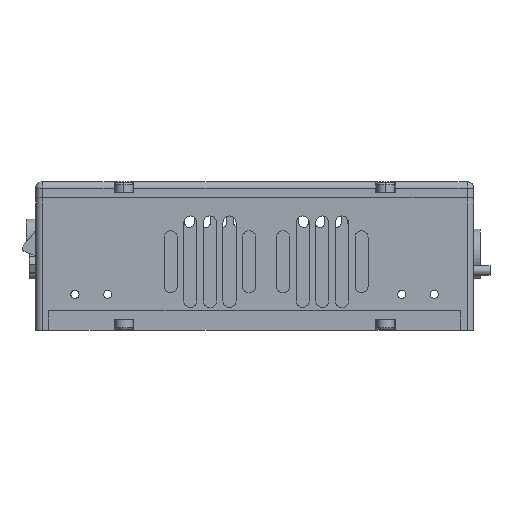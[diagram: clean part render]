
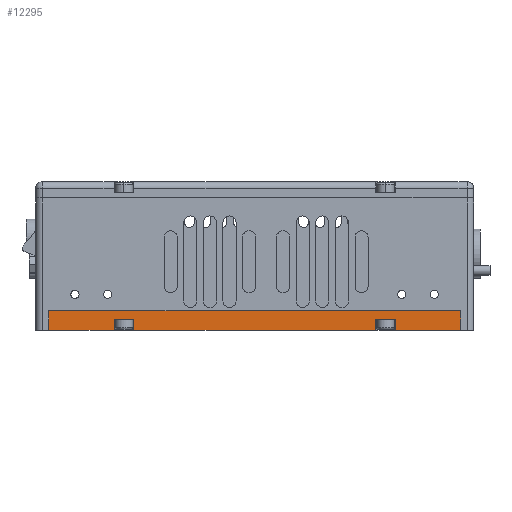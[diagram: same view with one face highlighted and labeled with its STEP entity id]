
A CAD part, left-side view. The second image highlights one B-rep face of the part: STEP entity #12295.
In plain terms, the highlighted planar face has unit normal (-1, 0, 0).
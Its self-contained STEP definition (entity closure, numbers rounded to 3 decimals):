
#48 = DIRECTION ( 'NONE',  ( 0., 0., -1. ) ) ;
#385 = ORIENTED_EDGE ( 'NONE', *, *, #43099, .T. ) ;
#536 = EDGE_CURVE ( 'NONE', #17901, #13995, #5766, .T. ) ;
#1680 = ORIENTED_EDGE ( 'NONE', *, *, #68873, .F. ) ;
#2332 = CARTESIAN_POINT ( 'NONE',  ( -82.53, -33.464, 160. ) ) ;
#2452 = CARTESIAN_POINT ( 'NONE',  ( -82.53, 66.536, 160. ) ) ;
#3246 = DIRECTION ( 'NONE',  ( 0., 1., 0. ) ) ;
#3880 = ORIENTED_EDGE ( 'NONE', *, *, #32944, .T. ) ;
#4252 = DIRECTION ( 'NONE',  ( 0., -1., 0. ) ) ;
#5336 = EDGE_CURVE ( 'NONE', #30299, #17901, #9586, .T. ) ;
#5766 = LINE ( 'NONE', #59348, #59081 ) ;
#6698 = LINE ( 'NONE', #79494, #22398 ) ;
#8319 = VECTOR ( 'NONE', #25531, 1000. ) ;
#9246 = CARTESIAN_POINT ( 'NONE',  ( -82.53, 66.536, 166. ) ) ;
#9586 = LINE ( 'NONE', #24372, #78517 ) ;
#10113 = CARTESIAN_POINT ( 'NONE',  ( -82.53, 46.536, 163.4 ) ) ;
#10163 = ORIENTED_EDGE ( 'NONE', *, *, #5336, .F. ) ;
#11516 = LINE ( 'NONE', #84877, #62711 ) ;
#11641 = CARTESIAN_POINT ( 'NONE',  ( -82.53, -33.464, 163.4 ) ) ;
#11985 = ORIENTED_EDGE ( 'NONE', *, *, #52249, .F. ) ;
#12093 = EDGE_CURVE ( 'NONE', #42772, #34547, #63641, .T. ) ;
#12295 = ADVANCED_FACE ( 'NONE', ( #84518 ), #55277, .F. ) ;
#13995 = VERTEX_POINT ( 'NONE', #39219 ) ;
#15279 = CARTESIAN_POINT ( 'NONE',  ( -82.53, 66.536, 166. ) ) ;
#17240 = ORIENTED_EDGE ( 'NONE', *, *, #12093, .F. ) ;
#17491 = DIRECTION ( 'NONE',  ( 0., -1., 0. ) ) ;
#17901 = VERTEX_POINT ( 'NONE', #75619 ) ;
#18163 = AXIS2_PLACEMENT_3D ( 'NONE', #15279, #61994, #22013 ) ;
#18798 = VECTOR ( 'NONE', #23178, 1000. ) ;
#19176 = LINE ( 'NONE', #57475, #36913 ) ;
#19394 = EDGE_CURVE ( 'NONE', #21034, #68432, #62543, .T. ) ;
#21034 = VERTEX_POINT ( 'NONE', #65521 ) ;
#22013 = DIRECTION ( 'NONE',  ( 0., 1., 0. ) ) ;
#22398 = VECTOR ( 'NONE', #46212, 1000. ) ;
#23178 = DIRECTION ( 'NONE',  ( 0., -1., 0. ) ) ;
#24372 = CARTESIAN_POINT ( 'NONE',  ( -82.53, 66.536, 166. ) ) ;
#24611 = CARTESIAN_POINT ( 'NONE',  ( -82.53, 66.536, 160. ) ) ;
#25531 = DIRECTION ( 'NONE',  ( 0., 0., -1. ) ) ;
#25984 = VERTEX_POINT ( 'NONE', #2332 ) ;
#26157 = LINE ( 'NONE', #72970, #59583 ) ;
#28611 = VERTEX_POINT ( 'NONE', #24611 ) ;
#29591 = VERTEX_POINT ( 'NONE', #80109 ) ;
#30299 = VERTEX_POINT ( 'NONE', #33548 ) ;
#30479 = EDGE_CURVE ( 'NONE', #30299, #28611, #81844, .T. ) ;
#32029 = VERTEX_POINT ( 'NONE', #32395 ) ;
#32395 = CARTESIAN_POINT ( 'NONE',  ( -82.53, 40.536, 160. ) ) ;
#32944 = EDGE_CURVE ( 'NONE', #42772, #29591, #11516, .T. ) ;
#33136 = ORIENTED_EDGE ( 'NONE', *, *, #19394, .T. ) ;
#33548 = CARTESIAN_POINT ( 'NONE',  ( -82.53, 66.536, 166. ) ) ;
#34547 = VERTEX_POINT ( 'NONE', #72890 ) ;
#35897 = LINE ( 'NONE', #62380, #69330 ) ;
#36565 = CARTESIAN_POINT ( 'NONE',  ( -82.53, -39.464, 163.4 ) ) ;
#36620 = ORIENTED_EDGE ( 'NONE', *, *, #38635, .T. ) ;
#36913 = VECTOR ( 'NONE', #17491, 1000. ) ;
#37716 = DIRECTION ( 'NONE',  ( 0., 0., -1. ) ) ;
#38382 = VERTEX_POINT ( 'NONE', #11641 ) ;
#38635 = EDGE_CURVE ( 'NONE', #29591, #32029, #35897, .T. ) ;
#39219 = CARTESIAN_POINT ( 'NONE',  ( -82.53, -59.464, 160. ) ) ;
#42772 = VERTEX_POINT ( 'NONE', #10113 ) ;
#43099 = EDGE_CURVE ( 'NONE', #28611, #34547, #72096, .T. ) ;
#44728 = EDGE_CURVE ( 'NONE', #68432, #13995, #19176, .T. ) ;
#45310 = LINE ( 'NONE', #36565, #78754 ) ;
#46212 = DIRECTION ( 'NONE',  ( 0., -1., 0. ) ) ;
#48662 = EDGE_CURVE ( 'NONE', #32029, #25984, #6698, .T. ) ;
#48917 = ORIENTED_EDGE ( 'NONE', *, *, #30479, .T. ) ;
#49243 = DIRECTION ( 'NONE',  ( 0., 0., -1. ) ) ;
#50699 = CARTESIAN_POINT ( 'NONE',  ( -82.53, -39.464, 160. ) ) ;
#52249 = EDGE_CURVE ( 'NONE', #38382, #25984, #26157, .T. ) ;
#55277 = PLANE ( 'NONE',  #18163 ) ;
#57475 = CARTESIAN_POINT ( 'NONE',  ( -82.53, 66.536, 160. ) ) ;
#59081 = VECTOR ( 'NONE', #37716, 1000. ) ;
#59348 = CARTESIAN_POINT ( 'NONE',  ( -82.53, -59.464, 166. ) ) ;
#59583 = VECTOR ( 'NONE', #79652, 1000. ) ;
#60470 = VECTOR ( 'NONE', #48, 1000. ) ;
#61994 = DIRECTION ( 'NONE',  ( 1., 0., 0. ) ) ;
#62069 = ORIENTED_EDGE ( 'NONE', *, *, #48662, .T. ) ;
#62380 = CARTESIAN_POINT ( 'NONE',  ( -82.53, 40.536, 163.4 ) ) ;
#62543 = LINE ( 'NONE', #86561, #60470 ) ;
#62711 = VECTOR ( 'NONE', #4252, 1000. ) ;
#63641 = LINE ( 'NONE', #72252, #8319 ) ;
#64018 = VECTOR ( 'NONE', #49243, 1000. ) ;
#64352 = DIRECTION ( 'NONE',  ( 0., -1., 0. ) ) ;
#65521 = CARTESIAN_POINT ( 'NONE',  ( -82.53, -39.464, 163.4 ) ) ;
#68432 = VERTEX_POINT ( 'NONE', #50699 ) ;
#68873 = EDGE_CURVE ( 'NONE', #21034, #38382, #45310, .T. ) ;
#69118 = DIRECTION ( 'NONE',  ( 0., 0., -1. ) ) ;
#69330 = VECTOR ( 'NONE', #69118, 1000. ) ;
#72096 = LINE ( 'NONE', #2452, #18798 ) ;
#72252 = CARTESIAN_POINT ( 'NONE',  ( -82.53, 46.536, 163.4 ) ) ;
#72890 = CARTESIAN_POINT ( 'NONE',  ( -82.53, 46.536, 160. ) ) ;
#72970 = CARTESIAN_POINT ( 'NONE',  ( -82.53, -33.464, 163.4 ) ) ;
#73827 = ORIENTED_EDGE ( 'NONE', *, *, #44728, .T. ) ;
#75619 = CARTESIAN_POINT ( 'NONE',  ( -82.53, -59.464, 166. ) ) ;
#76577 = EDGE_LOOP ( 'NONE', ( #17240, #3880, #36620, #62069, #11985, #1680, #33136, #73827, #84186, #10163, #48917, #385 ) ) ;
#78517 = VECTOR ( 'NONE', #64352, 1000. ) ;
#78754 = VECTOR ( 'NONE', #3246, 1000. ) ;
#79494 = CARTESIAN_POINT ( 'NONE',  ( -82.53, 66.536, 160. ) ) ;
#79652 = DIRECTION ( 'NONE',  ( 0., 0., -1. ) ) ;
#80109 = CARTESIAN_POINT ( 'NONE',  ( -82.53, 40.536, 163.4 ) ) ;
#81844 = LINE ( 'NONE', #9246, #64018 ) ;
#84186 = ORIENTED_EDGE ( 'NONE', *, *, #536, .F. ) ;
#84518 = FACE_OUTER_BOUND ( 'NONE', #76577, .T. ) ;
#84877 = CARTESIAN_POINT ( 'NONE',  ( -82.53, 46.536, 163.4 ) ) ;
#86561 = CARTESIAN_POINT ( 'NONE',  ( -82.53, -39.464, 163.4 ) ) ;
